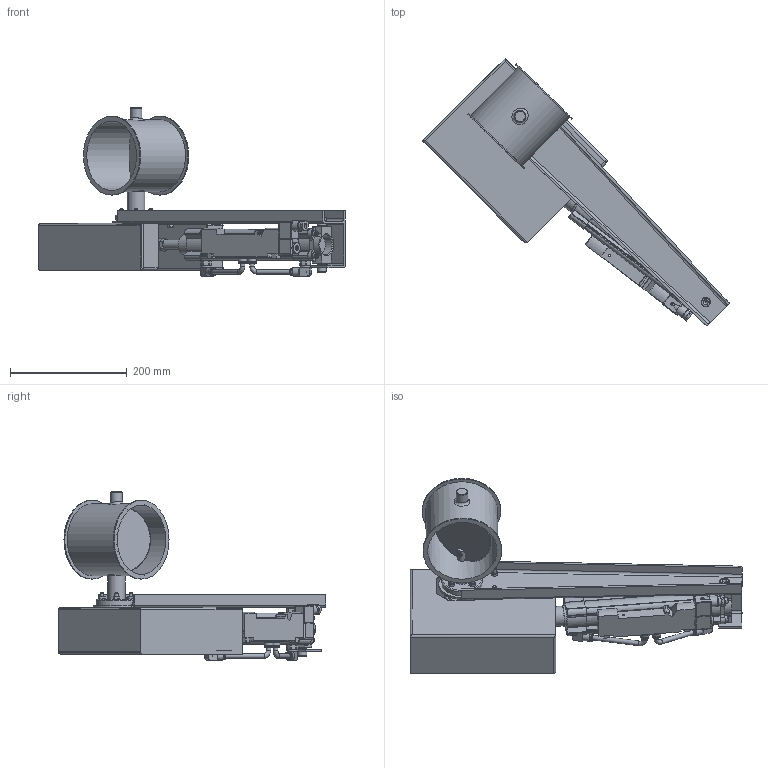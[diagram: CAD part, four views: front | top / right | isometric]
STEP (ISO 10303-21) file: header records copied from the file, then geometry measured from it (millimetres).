
FILE_DESCRIPTION((''),'2;1');
FILE_NAME('U:\Wolfgang\Marcel-3D\fertig\Kapitel 8\1221211.stp','2011-05-03T15:04:33',('TK1'),(''),'Autodesk Inventor 2010','Autodesk Inventor 2010','');
FILE_SCHEMA(('AUTOMOTIVE_DESIGN { 1 0 10303 214 1 1 1 1 }'));
Length unit declared in the file: millimetre
Products named in the file (38): 1221211; BuchseD15 70-50; Bolzen D15; Scheibe120b; F1 Zylindereinheit; 174412_ZNCF_40_6_0; 174412_ZNCF_40_6_01; 174412_ZNCF_40_6_02; 174412_ZNCF_40_6_03; 174412_ZNCF_40_6_04; 174412_ZNCF_40_6_05; 532743_DNCB_40_160_PPV_A_6_0; 532743_DNCB_40_160_PPV_A_6_01; 532743_DNCB_40_160_PPV_A_6_02; 537600_VUVB_S_B42_ZD_Q8_3AC1_6_0; 537600_VUVB_S_B42_ZD_Q8_3AC1_6_01; 537600_VUVB_S_B42_ZD_Q8_3AC1_6_02; 537600_VUVB_S_B42_ZD_Q8_3AC1_6_03; 4527_MSFG_24_42_50_60_6_0; 4527_MSFG_24_42_50_60_6_01; 4527_MSFG_24_42_50_60_6_02; 153414_QSRL_1_4_8_6_0; schlauch; Strebe d15; 0021088 d15; Bolzen; Schutzkasten; Kasten-a; Kasten-b; 13570_CRSG_M12x125_6_0; ISO 4018 M6 x 20; ISO 4032 M6; ISO 4018 M8 x 30; ISO 4027 M6 x 10; DIN 6912 M6 x 16; 1221211-1; DIN 555 - ersetzt durch DIN EN 24034 M6; DIN EN ISO 4018 M6x25
Assembly tree (50 placements, depth 4):
  1221211
    BuchseD15 70-50
    Bolzen D15  x2
    Scheibe120b
    F1 Zylindereinheit
      174412_ZNCF_40_6_0
        174412_ZNCF_40_6_01
        174412_ZNCF_40_6_02
        174412_ZNCF_40_6_03
        174412_ZNCF_40_6_04
        174412_ZNCF_40_6_05
      532743_DNCB_40_160_PPV_A_6_0
        532743_DNCB_40_160_PPV_A_6_01
        532743_DNCB_40_160_PPV_A_6_02
      537600_VUVB_S_B42_ZD_Q8_3AC1_6_0
        537600_VUVB_S_B42_ZD_Q8_3AC1_6_01
        537600_VUVB_S_B42_ZD_Q8_3AC1_6_02
        537600_VUVB_S_B42_ZD_Q8_3AC1_6_03
      4527_MSFG_24_42_50_60_6_0
        4527_MSFG_24_42_50_60_6_01
        4527_MSFG_24_42_50_60_6_02
      153414_QSRL_1_4_8_6_0  x2
      schlauch  x2
      Strebe d15
      0021088 d15
      Bolzen
      Schutzkasten
        Kasten-a
        Kasten-b
      13570_CRSG_M12x125_6_0
      ISO 4018 M6 x 20  x2
      ISO 4032 M6  x2
      ISO 4018 M8 x 30
      ISO 4027 M6 x 10  x2
    DIN 6912 M6 x 16  x2
    1221211-1
    DIN 555 - ersetzt durch DIN EN 24034 M6  x4
    DIN EN ISO 4018 M6x25  x4
Bounding box: 526.09 x 458.91 x 288.27 mm (x, y, z)
Volume: 1433974.7 mm3; surface area: 763591.7 mm2
Topology: 44 solids, 44 shells, 2620 faces, 6954 edges, 4518 vertices
Faces by surface type: plane 1948, cylinder 399, cone 223, bspline 41, torus 7, sphere 2
Full cylindrical faces by diameter (mm): 1 x3, 2.459 x1, 3 x4, 3.5 x1, 4 x1, 4.5 x1, 4.917 x8, 5 x2, 5.471 x2, 5.5 x1, 6 x37, 6.8 x4, 7.188 x1, 8 x10, 8.05 x1, 9 x2, 9.6 x2, 9.653 x1, 10 x8, 10.15 x2, 11.2 x2, 11.445 x2, 12 x6, 12.5 x1, 13.05 x2, 13.157 x2, 14 x8, 14.4 x4, 14.5 x2, 14.7 x6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
Entity records: 76295 total; most frequent: CARTESIAN_POINT 14874, ORIENTED_EDGE 12264, DIRECTION 11815, EDGE_CURVE 6132, VECTOR 4911, LINE 4911, VERTEX_POINT 4155, AXIS2_PLACEMENT_3D 3452
